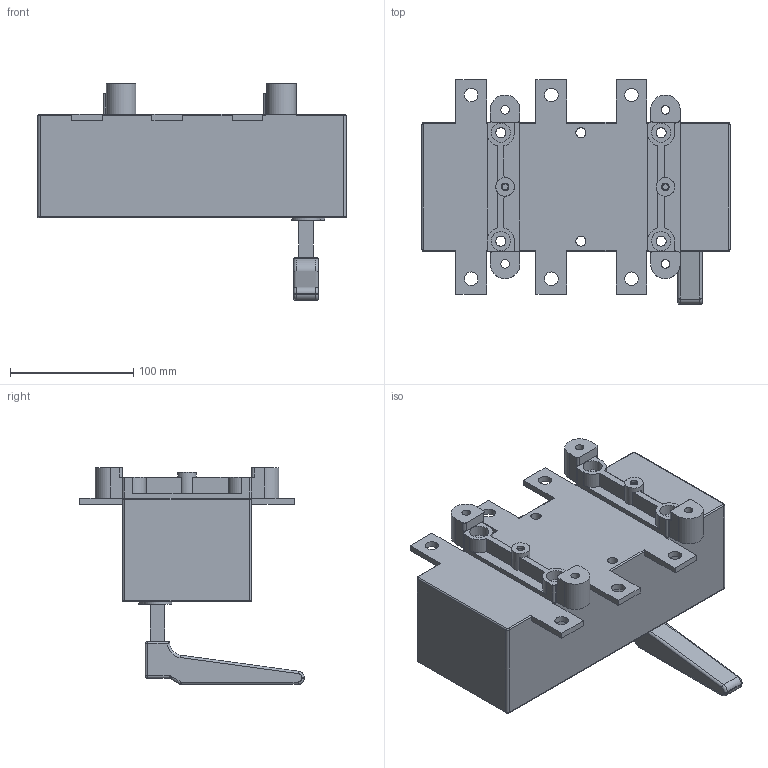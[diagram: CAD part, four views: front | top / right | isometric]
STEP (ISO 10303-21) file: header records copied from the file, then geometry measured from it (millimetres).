
FILE_DESCRIPTION(/* description */ (''),/* implementation_level */ '2;1');
FILE_NAME(/* name */ 'RA630 P3-R.stp',/* time_stamp */ '2021-08-18T14:35:43+02:00',/* author */ (''),/* organization */ (''),/* preprocessor_version */ 'ST-DEVELOPER v18.1',/* originating_system */ 'SIEMENS PLM Software NX 1965',/* authorisation */ '');
FILE_SCHEMA (('AUTOMOTIVE_DESIGN { 1 0 10303 214 3 1 1 1 }'));
Length unit declared in the file: millimetre
Products named in the file (1): RA630 P3-R_stp
Bounding box: 250 x 182 x 176 mm (x, y, z)
Volume: 2335951.9 mm3; surface area: 173208.4 mm2
Topology: 1 solids, 1 shells, 236 faces, 615 edges, 390 vertices
Faces by surface type: cylinder 109, plane 105, torus 13, sphere 6, bspline 3
Full cylindrical faces by diameter (mm): 4.8 x2, 6.2 x2, 7 x4, 8.2 x6, 11 x6, 14 x4, 15 x2, 15.5 x4
Entity records: 7112 total; most frequent: DIRECTION 1271, CARTESIAN_POINT 1263, ORIENTED_EDGE 1138, EDGE_CURVE 569, AXIS2_PLACEMENT_3D 472, VERTEX_POINT 380, LINE 327, VECTOR 327
